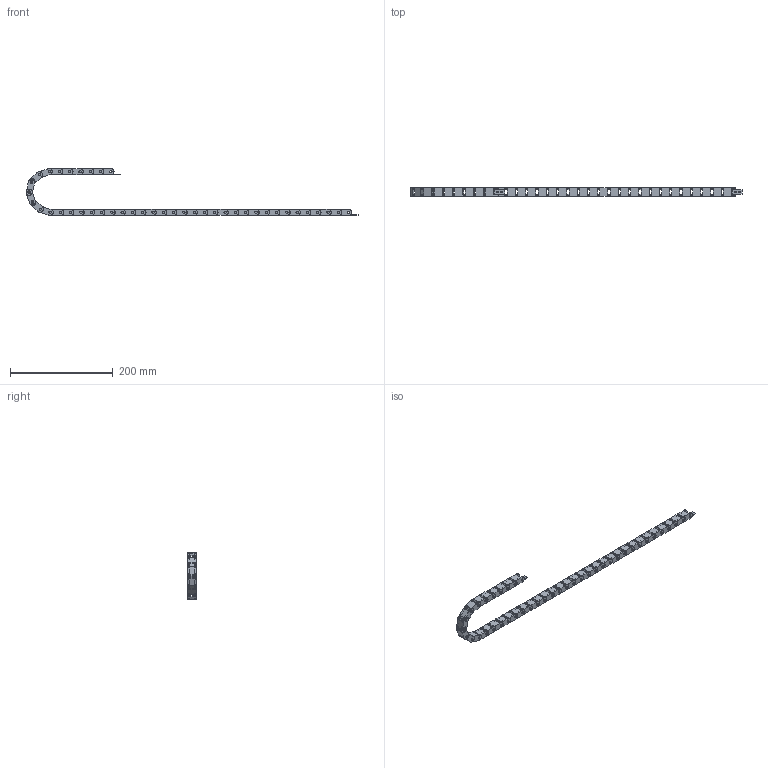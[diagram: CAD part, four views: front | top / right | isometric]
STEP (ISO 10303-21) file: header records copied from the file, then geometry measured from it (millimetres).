
FILE_DESCRIPTION(/* description */ (''),/* implementation_level */ '2;1');
FILE_NAME(/* name */ '8.x-drive#8.8#MHPKS101-19-20-S',/* time_stamp */ '2014-12-01T20:18:32+01:00',/* author */ (''),/* organization */ (''),/* preprocessor_version */ 'ST-DEVELOPER v14',/* originating_system */ '',/* authorisation */ '');
FILE_SCHEMA (('AUTOMOTIVE_DESIGN'));
Products named in the file (2): Document; MHPKS101-19-20-S
Assembly tree (1 placements, depth 2):
  Document
    MHPKS101-19-20-S
Bounding box: 645.04 x 16 x 91.05 mm (x, y, z)
Volume: 89379.3 mm3; surface area: 102450.6 mm2
Topology: 43 solids, 43 shells, 1795 faces, 4512 edges, 2762 vertices
Faces by surface type: plane 1131, bspline 664
Entity records: 116061 total; most frequent: CARTESIAN_POINT 57181, B_SPLINE_CURVE_WITH_KNOTS 10478, ORIENTED_EDGE 9024, PCURVE 9024, DEFINITIONAL_REPRESENTATION 9024, SURFACE_CURVE 4512, EDGE_CURVE 4512, VERTEX_POINT 2762
